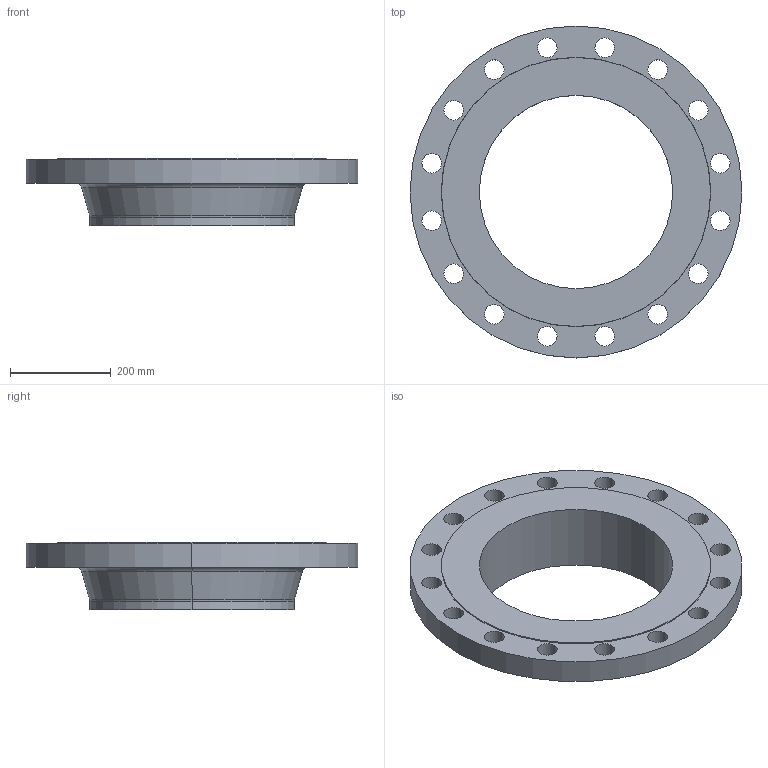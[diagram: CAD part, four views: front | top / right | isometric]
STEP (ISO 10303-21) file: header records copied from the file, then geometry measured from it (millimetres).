
FILE_DESCRIPTION (( 'STEP AP214' ), '1' );
FILE_NAME ('PN40 DN400 Type 11 - Type B Face.STEP', '2019-01-05T23:19:56', ( '' ), ( '' ), 'SwSTEP 2.0', 'SolidWorks 2019', '' );
FILE_SCHEMA (( 'AUTOMOTIVE_DESIGN' ));
Length unit declared in the file: millimetre
Products named in the file (1): PN40 DN400 Type 11 - Type B Face
Bounding box: 660 x 660 x 135 mm (x, y, z)
Volume: 12155142.2 mm3; surface area: 860632.8 mm2
Topology: 1 solids, 1 shells, 50 faces, 132 edges, 86 vertices
Faces by surface type: cylinder 38, cone 4, torus 4, plane 4
Entity records: 1700 total; most frequent: DIRECTION 324, CARTESIAN_POINT 269, ORIENTED_EDGE 264, AXIS2_PLACEMENT_3D 141, EDGE_CURVE 132, CIRCLE 90, VERTEX_POINT 86, EDGE_LOOP 86
